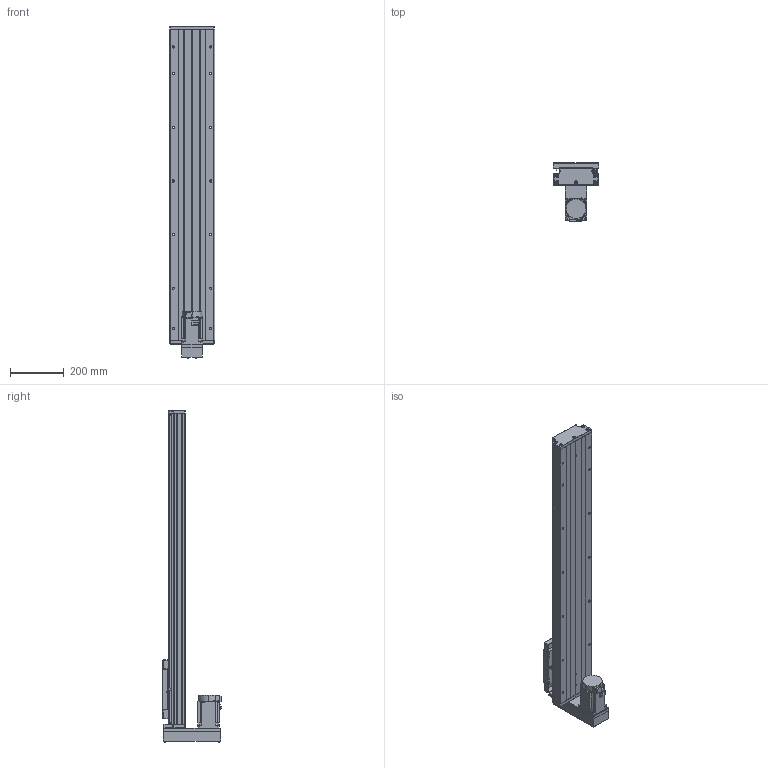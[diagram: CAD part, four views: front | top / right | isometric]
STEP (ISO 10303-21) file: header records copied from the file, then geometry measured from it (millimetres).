
FILE_DESCRIPTION (( 'STEP AP203' ), '1' );
FILE_NAME ('GTH17-900-BM-M75-C4.step', '2023-06-30T12:41:23', ( '微软用户' ), ( '微软中国' ), 'SwSTEP 2.0', 'SolidWorks 2020', '' );
FILE_SCHEMA (( 'CONFIG_CONTROL_DESIGN' ));
Length unit declared in the file: millimetre
Products named in the file (19): CTHA60-017; GBT 70.2-M3¡Á5_M3¡Á6; EE_SX911P_R; す晦芛蹟隊 M3℅5; GTH17-001_900; CTHA60-016; HG-KN73J-S100; GTH17-002_GTH17-002; GBT 70.1-M3℅5; GBT 70.2-M4¡Á45_M4¡Á35; GTH17-004; GBT77-2000 M3×3; GTH17-015-2_CTHA86-015-2; GTH17-005; GBT 70.1-M6¡Á20_M6¡Á20; GTH17-033; GB1155-6X6; GTH17-031; GTH17-900-BM-M75-C4
Assembly tree (58 placements, depth 2):
  GTH17-900-BM-M75-C4
    GTH17-001_900
    GTH17-002_GTH17-002
    GTH17-004
    GTH17-005
    GB1155-6X6  x2
    CTHA60-017  x3
    EE_SX911P_R  x3
    CTHA60-016  x2
    GBT 70.1-M3℅5  x6
    GBT77-2000 M3×3  x6
    GBT 70.1-M6¡Á20_M6¡Á20  x10
    GTH17-031
    GBT 70.2-M3¡Á5_M3¡Á6  x8
    す晦芛蹟隊 M3℅5  x6
    HG-KN73J-S100
    GBT 70.2-M4¡Á45_M4¡Á35  x4
    GTH17-015-2_CTHA86-015-2
    GTH17-033
Bounding box: 171 x 222.3 x 1238.2 mm (x, y, z)
Volume: 10181692.9 mm3; surface area: 1381721.3 mm2
Topology: 61 solids, 61 shells, 2459 faces, 5869 edges, 3635 vertices
Faces by surface type: plane 1312, cylinder 674, cone 297, torus 124, sphere 32, bspline 20
Entity records: 45046 total; most frequent: CARTESIAN_POINT 10416, DIRECTION 6541, ORIENTED_EDGE 6450, EDGE_CURVE 3225, AXIS2_PLACEMENT_3D 2238, VECTOR 2065, LINE 2065, VERTEX_POINT 2047
